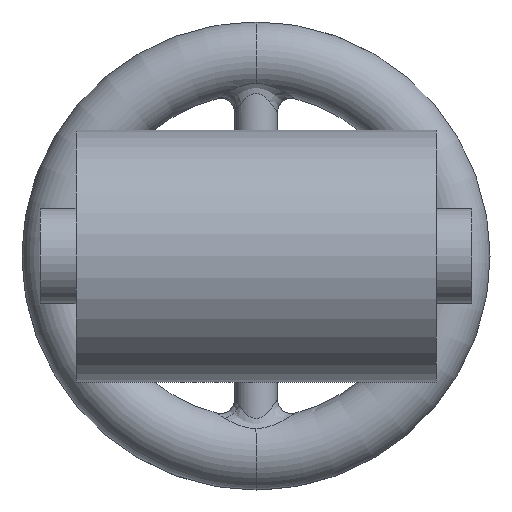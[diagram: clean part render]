
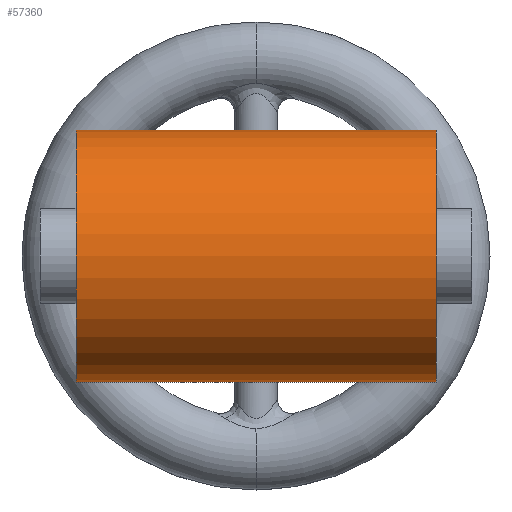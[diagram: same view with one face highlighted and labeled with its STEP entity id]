
A CAD part, front view. The second image highlights one B-rep face of the part: STEP entity #57360.
In plain terms, the highlighted cylindrical face has radius 44.45 mm (diameter 88.9 mm), a partial arc.
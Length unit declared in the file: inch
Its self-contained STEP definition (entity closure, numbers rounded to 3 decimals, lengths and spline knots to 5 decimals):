
#4118 = LINE ( 'NONE', #10151, #40462 ) ;
#7119 = DIRECTION ( 'NONE',  ( -1., 0., 0. ) ) ;
#8426 = CARTESIAN_POINT ( 'NONE',  ( 2.5, 0., 1.75 ) ) ;
#10151 = CARTESIAN_POINT ( 'NONE',  ( 7.44975, 0., -1.75 ) ) ;
#13015 = CARTESIAN_POINT ( 'NONE',  ( -2.5, 0., 0. ) ) ;
#16169 = ORIENTED_EDGE ( 'NONE', *, *, #83778, .F. ) ;
#19834 = CARTESIAN_POINT ( 'NONE',  ( 7.44975, 0., 1.75 ) ) ;
#20094 = DIRECTION ( 'NONE',  ( 0., 0., 1. ) ) ;
#22435 = VERTEX_POINT ( 'NONE', #39004 ) ;
#23690 = CARTESIAN_POINT ( 'NONE',  ( 2.5, 0., 0. ) ) ;
#25731 = FACE_OUTER_BOUND ( 'NONE', #47008, .T. ) ;
#26406 = DIRECTION ( 'NONE',  ( 0., 0., 1. ) ) ;
#27175 = LINE ( 'NONE', #19834, #61371 ) ;
#39004 = CARTESIAN_POINT ( 'NONE',  ( -2.5, 0., 1.75 ) ) ;
#40462 = VECTOR ( 'NONE', #70235, 39.37008 ) ;
#41245 = AXIS2_PLACEMENT_3D ( 'NONE', #23690, #68661, #50493 ) ;
#41299 = CIRCLE ( 'NONE', #41245, 1.75 ) ;
#45708 = ORIENTED_EDGE ( 'NONE', *, *, #47223, .F. ) ;
#47008 = EDGE_LOOP ( 'NONE', ( #58902, #16169, #52418, #45708 ) ) ;
#47223 = EDGE_CURVE ( 'NONE', #71699, #22435, #50395, .T. ) ;
#50395 = CIRCLE ( 'NONE', #53176, 1.75 ) ;
#50451 = VERTEX_POINT ( 'NONE', #63777 ) ;
#50493 = DIRECTION ( 'NONE',  ( 0., 0., 1. ) ) ;
#52097 = CYLINDRICAL_SURFACE ( 'NONE', #63709, 1.75 ) ;
#52418 = ORIENTED_EDGE ( 'NONE', *, *, #73700, .T. ) ;
#53176 = AXIS2_PLACEMENT_3D ( 'NONE', #13015, #60543, #26406 ) ;
#57360 = ADVANCED_FACE ( 'NONE', ( #25731 ), #52097, .T. ) ;
#58902 = ORIENTED_EDGE ( 'NONE', *, *, #77404, .F. ) ;
#60543 = DIRECTION ( 'NONE',  ( -1., 0., 0. ) ) ;
#61371 = VECTOR ( 'NONE', #79497, 39.37008 ) ;
#63348 = VERTEX_POINT ( 'NONE', #8426 ) ;
#63709 = AXIS2_PLACEMENT_3D ( 'NONE', #79747, #7119, #20094 ) ;
#63777 = CARTESIAN_POINT ( 'NONE',  ( 2.5, 0., -1.75 ) ) ;
#68661 = DIRECTION ( 'NONE',  ( 1., 0., 0. ) ) ;
#70235 = DIRECTION ( 'NONE',  ( -1., 0., 0. ) ) ;
#71699 = VERTEX_POINT ( 'NONE', #84338 ) ;
#73700 = EDGE_CURVE ( 'NONE', #63348, #22435, #27175, .T. ) ;
#77404 = EDGE_CURVE ( 'NONE', #50451, #71699, #4118, .T. ) ;
#79497 = DIRECTION ( 'NONE',  ( -1., 0., 0. ) ) ;
#79747 = CARTESIAN_POINT ( 'NONE',  ( 7.44975, 0., 0. ) ) ;
#83778 = EDGE_CURVE ( 'NONE', #63348, #50451, #41299, .T. ) ;
#84338 = CARTESIAN_POINT ( 'NONE',  ( -2.5, 0., -1.75 ) ) ;
